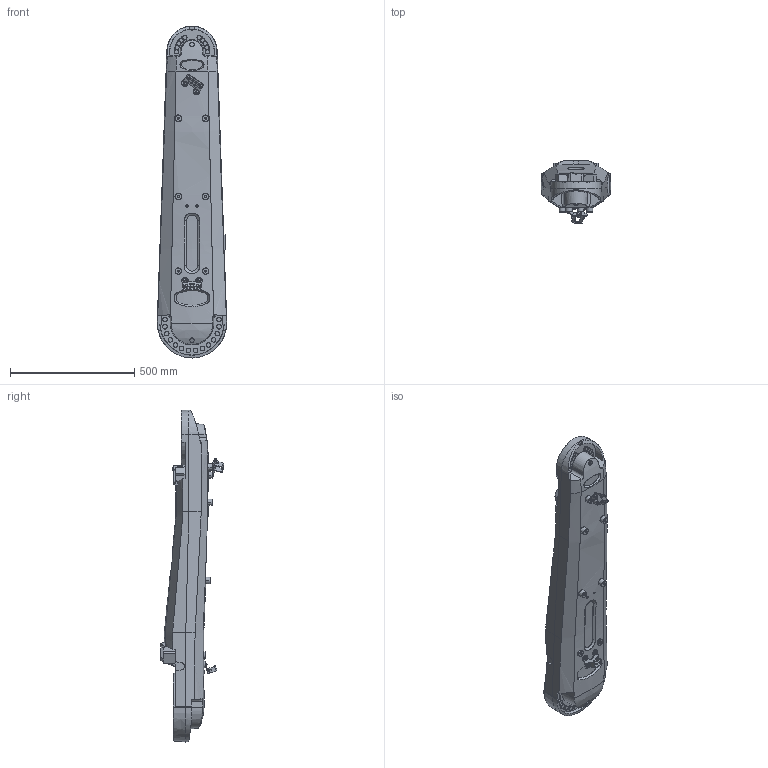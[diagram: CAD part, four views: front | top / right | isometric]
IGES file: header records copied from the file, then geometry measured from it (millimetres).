
Start section: SolidWorks IGES file using analytic representation for surfaces
Global section: file name: C:\Data\SAP_DOC\_2016-Q4_Lättmodeller RobCal\CAD Model_IRB4600_Rev04\IRB4600_40kg-255_IRC5_rev04\IRB4600_40kg-255_IRC5_rev04_IRC5_IGES_j\IRB4600_40kg-255_LINK2_CAD_rev04.IGS; native system: SolidWorks 2014; preprocessor: SolidWorks 2014; author: SEMAAXM; date: 161206.112852; units: millimetre
Bounding box: 280 x 257.21 x 1336.5 mm (x, y, z)
Surface area: 1045928.3 mm2 (no closed solid volume)
Topology: 0 solids, 0 shells, 745 faces, 12629 edges, 12608 vertices
Faces by surface type: bspline 431, revolution 314
